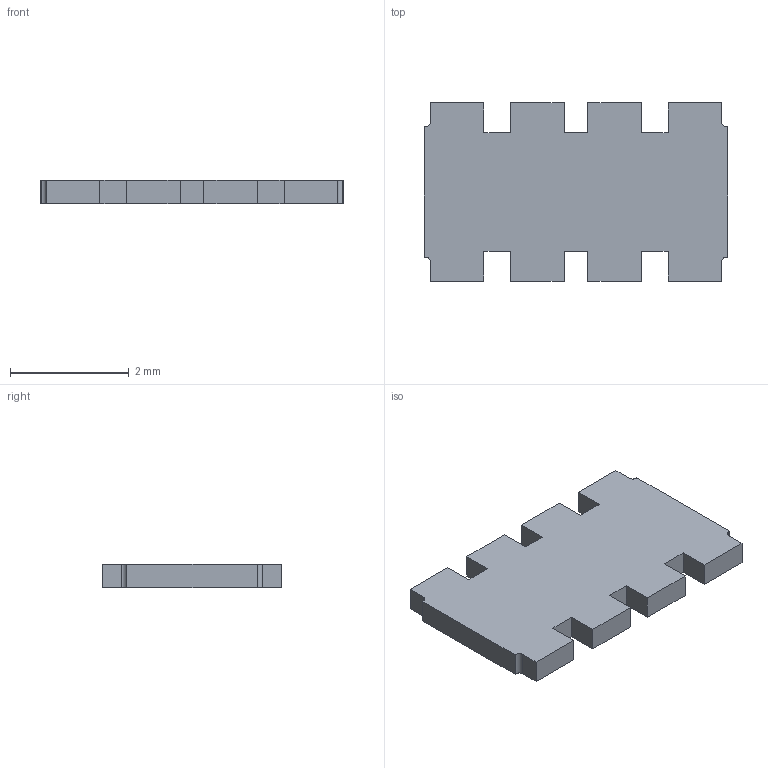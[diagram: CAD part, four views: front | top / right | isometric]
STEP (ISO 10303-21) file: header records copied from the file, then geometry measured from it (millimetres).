
FILE_DESCRIPTION(/* description */ ('STEP AP242 Edition 2','CAx-IF Rec.Pracs.---Representation and Presentation of Product Manufacturing Information (PMI)---4.0---2014-10-13','CAx-IF Rec.Pracs.---3D Tessellated Geometry---0.4---2014-09-14','2;1','CAx-IF Rec.Pracs.---User Defined Attributes---1.5---2016-08-15'),/* implementation_level */ '2;1');
FILE_NAME(/* name */ 'Assembly 1 - RES-ARRAY-SMD_1206-8P-L5.1-W3.1-BL~RES-ARRAY-SMD_1206-8P-L5.1-W3.1-H0.55-BL~nxQB_1',/* time_stamp */ '2026-04-02T09:55:20Z',/* author */ (''),/* organization */ (''),/* preprocessor_version */ 'ST-DEVELOPER v20',/* originating_system */ 'ONSHAPE BY PTC INC, 1.212',/* authorisation */ ' ');
FILE_SCHEMA (('AP242_MANAGED_MODEL_BASED_3D_ENGINEERING_MIM_LF { 1 0 10303 442 3 1 4 }'));
Length unit declared in the file: metre
Products named in the file (1): RES-ARRAY-SMD_1206-8P-L5.1-W3.1-BL~RES-ARRAY-SMD_1206-8P-L5.1-W3.1-H0.
55-BL~nxQB_1
Bounding box: 5.1 x 3 x 0.4 mm (x, y, z)
Volume: 5.5 mm3; surface area: 36.5 mm2
Topology: 1 solids, 1 shells, 42 faces, 120 edges, 80 vertices
Faces by surface type: plane 38, cylinder 4
Entity records: 1669 total; most frequent: CARTESIAN_POINT 243, ORIENTED_EDGE 240, DIRECTION 214, EDGE_CURVE 120, LINE 112, VECTOR 112, VERTEX_POINT 80, AXIS2_PLACEMENT_3D 51
